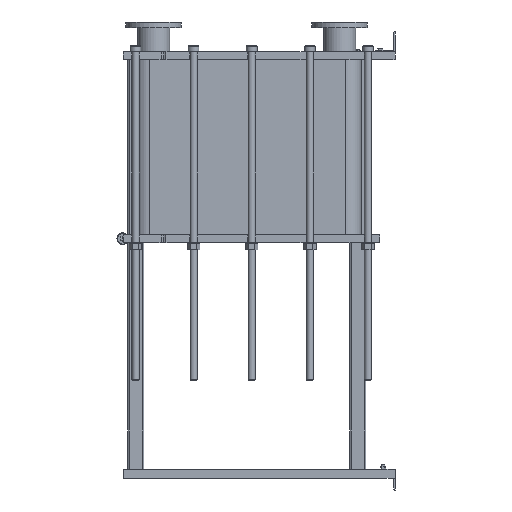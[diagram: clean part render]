
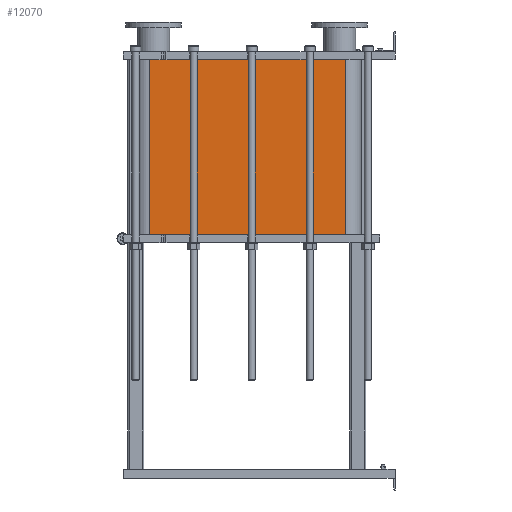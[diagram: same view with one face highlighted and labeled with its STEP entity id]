
A CAD part, left-side view. The second image highlights one B-rep face of the part: STEP entity #12070.
In plain terms, the highlighted planar face has unit normal (-1, 0, 0).
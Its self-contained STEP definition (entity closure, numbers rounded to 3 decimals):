
#1064=LINE('',#21140,#2164);
#1065=LINE('',#21144,#2165);
#1066=LINE('',#21146,#2166);
#1067=LINE('',#21147,#2167);
#2164=VECTOR('',#15790,10.);
#2165=VECTOR('',#15795,10.);
#2166=VECTOR('',#15796,10.);
#2167=VECTOR('',#15797,10.);
#3304=FACE_OUTER_BOUND('',#4091,.T.);
#4091=EDGE_LOOP('',(#9793,#9794,#9795,#9796));
#5677=VERTEX_POINT('',#21137);
#5678=VERTEX_POINT('',#21139);
#5679=VERTEX_POINT('',#21143);
#5680=VERTEX_POINT('',#21145);
#7118=EDGE_CURVE('',#5678,#5677,#1064,.T.);
#7120=EDGE_CURVE('',#5677,#5679,#1065,.T.);
#7121=EDGE_CURVE('',#5680,#5679,#1066,.T.);
#7122=EDGE_CURVE('',#5680,#5678,#1067,.T.);
#9793=ORIENTED_EDGE('',*,*,#7120,.T.);
#9794=ORIENTED_EDGE('',*,*,#7121,.F.);
#9795=ORIENTED_EDGE('',*,*,#7122,.T.);
#9796=ORIENTED_EDGE('',*,*,#7118,.T.);
#11441=PLANE('',#13191);
#12070=ADVANCED_FACE('',(#3304),#11441,.T.);
#13191=AXIS2_PLACEMENT_3D('',#21142,#15793,#15794);
#15790=DIRECTION('',(0.,0.,-1.));
#15793=DIRECTION('center_axis',(-1.,0.,0.));
#15794=DIRECTION('ref_axis',(0.,1.,0.));
#15795=DIRECTION('',(0.,-1.,0.));
#15796=DIRECTION('',(0.,0.,-1.));
#15797=DIRECTION('',(0.,1.,0.));
#21137=CARTESIAN_POINT('',(-248.152,1243.818,-886.65));
#21139=CARTESIAN_POINT('',(-248.152,1243.818,0.));
#21140=CARTESIAN_POINT('',(-248.152,1243.818,0.));
#21142=CARTESIAN_POINT('Origin',(-248.152,251.818,0.));
#21143=CARTESIAN_POINT('',(-248.152,251.818,-886.65));
#21144=CARTESIAN_POINT('',(-248.152,499.818,-886.65));
#21145=CARTESIAN_POINT('',(-248.152,251.818,0.));
#21146=CARTESIAN_POINT('',(-248.152,251.818,0.));
#21147=CARTESIAN_POINT('',(-248.152,251.818,0.));
